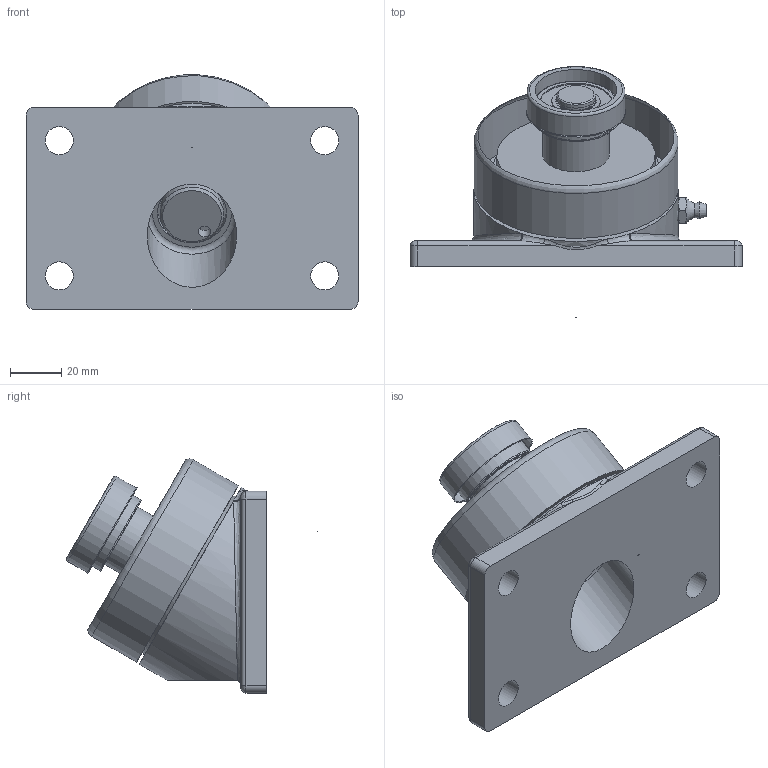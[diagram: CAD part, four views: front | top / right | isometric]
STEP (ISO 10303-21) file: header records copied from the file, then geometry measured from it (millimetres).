
FILE_DESCRIPTION(/* description */ (''),/* implementation_level */ '2;1');
FILE_NAME(/* name */ 'Z:\35-j-ito\製品モデル\SW-K\SW-70-K\HP用\SW-70-K.stp',/* time_stamp */ '2022-04-05T09:10:35+09:00',/* author */ ('j-ito'),/* organization */ (''),/* preprocessor_version */ 'ST-DEVELOPER v18.1',/* originating_system */ 'Autodesk Inventor 2022',/* authorisation */ '');
FILE_SCHEMA (('AUTOMOTIVE_DESIGN { 1 0 10303 214 3 1 1 }'));
Length unit declared in the file: millimetre
Products named in the file (3): SW-70-K; SW-70-K_1; グリスニップル
Assembly tree (2 placements, depth 2):
  SW-70-K
    SW-70-K_1
    グリスニップル
Bounding box: 130 x 98.29 x 91.72 mm (x, y, z)
Volume: 293053 mm3; surface area: 62464.7 mm2
Topology: 3 solids, 3 shells, 132 faces, 285 edges, 179 vertices
Faces by surface type: cylinder 44, plane 40, cone 26, bspline 13, torus 9
Full cylindrical faces by diameter (mm): 1.5 x1, 3 x1, 4.917 x1, 8 x1, 11 x4, 14.3 x1, 15 x3, 16 x1, 19 x2, 25 x1, 26 x1, 27 x1, 28 x2, 32 x1, 32.1 x1, 35 x2, 38.431 x1, 62.1 x1, 65 x2, 80 x1
Entity records: 4288 total; most frequent: CARTESIAN_POINT 1154, DIRECTION 649, ORIENTED_EDGE 566, AXIS2_PLACEMENT_3D 284, EDGE_CURVE 283, VERTEX_POINT 179, EDGE_LOOP 166, CIRCLE 149
